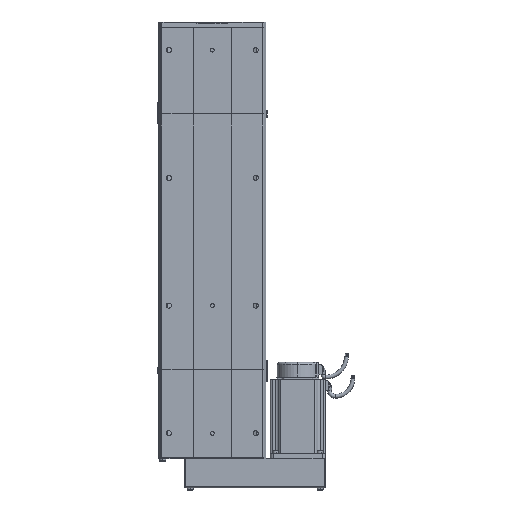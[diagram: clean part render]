
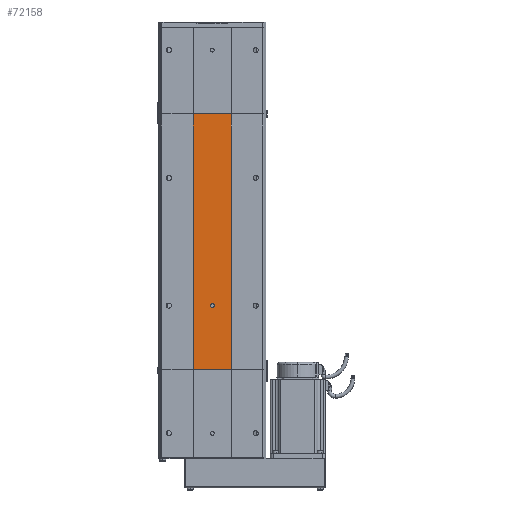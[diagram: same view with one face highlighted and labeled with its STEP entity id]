
A CAD part, front view. The second image highlights one B-rep face of the part: STEP entity #72158.
In plain terms, the highlighted planar face has unit normal (0, -1, 0).
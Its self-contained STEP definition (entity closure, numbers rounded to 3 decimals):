
#7827 = DIRECTION ( 'NONE',  ( 0., 0., -1. ) ) ;
#7828 = DIRECTION ( 'NONE',  ( 0., -1., 0. ) ) ;
#7900 = CARTESIAN_POINT ( 'NONE',  ( 0., -32.5, 100. ) ) ;
#7901 = AXIS2_PLACEMENT_3D ( 'NONE', #7900, #7828, #7827 ) ;
#7993 = CIRCLE ( 'NONE', #7901, 3. ) ;
#8314 = CARTESIAN_POINT ( 'NONE',  ( 0., -32.5, 103. ) ) ;
#8485 = CARTESIAN_POINT ( 'NONE',  ( 0., -32.5, 97. ) ) ;
#20485 = DIRECTION ( 'NONE',  ( -1., 0., 0. ) ) ;
#20486 = VECTOR ( 'NONE', #20485, 1000. ) ;
#20487 = CARTESIAN_POINT ( 'NONE',  ( -30., -32.5, 400. ) ) ;
#20489 = LINE ( 'NONE', #20487, #20486 ) ;
#20582 = CARTESIAN_POINT ( 'NONE',  ( 30., -32.5, 400. ) ) ;
#21229 = CARTESIAN_POINT ( 'NONE',  ( -30., -32.5, 400. ) ) ;
#21699 = AXIS2_PLACEMENT_3D ( 'NONE', #21706, #22015, #22014 ) ;
#21700 = LINE ( 'NONE', #21715, #21714 ) ;
#21706 = CARTESIAN_POINT ( 'NONE',  ( 0., -32.5, 100. ) ) ;
#21713 = DIRECTION ( 'NONE',  ( 0., 0., 1. ) ) ;
#21714 = VECTOR ( 'NONE', #21713, 1000. ) ;
#21715 = CARTESIAN_POINT ( 'NONE',  ( -30., -32.5, 0. ) ) ;
#21853 = CIRCLE ( 'NONE', #21699, 3. ) ;
#21888 = CARTESIAN_POINT ( 'NONE',  ( 30., -32.5, 0. ) ) ;
#22014 = DIRECTION ( 'NONE',  ( 0., 0., -1. ) ) ;
#22015 = DIRECTION ( 'NONE',  ( 0., -1., 0. ) ) ;
#22094 = DIRECTION ( 'NONE',  ( 0., 0., 1. ) ) ;
#22095 = LINE ( 'NONE', #22492, #22279 ) ;
#22096 = CARTESIAN_POINT ( 'NONE',  ( -30., -32.5, 0. ) ) ;
#22146 = DIRECTION ( 'NONE',  ( 0., 1., 0. ) ) ;
#22151 = FACE_OUTER_BOUND ( 'NONE', #72157, .T. ) ;
#22175 = AXIS2_PLACEMENT_3D ( 'NONE', #22096, #22146, #22094 ) ;
#22279 = VECTOR ( 'NONE', #22491, 1000. ) ;
#22292 = PLANE ( 'NONE',  #22175 ) ;
#22296 = FACE_BOUND ( 'NONE', #72032, .T. ) ;
#22491 = DIRECTION ( 'NONE',  ( 0., 0., 1. ) ) ;
#22492 = CARTESIAN_POINT ( 'NONE',  ( 30., -32.5, 0. ) ) ;
#22583 = VECTOR ( 'NONE', #22762, 1000. ) ;
#22653 = CARTESIAN_POINT ( 'NONE',  ( -30., -32.5, 0. ) ) ;
#22762 = DIRECTION ( 'NONE',  ( -1., 0., 0. ) ) ;
#22769 = CARTESIAN_POINT ( 'NONE',  ( -30., -32.5, 0. ) ) ;
#22771 = LINE ( 'NONE', #22769, #22583 ) ;
#71844 = EDGE_CURVE ( 'NONE', #71845, #71902, #20489, .T. ) ;
#71845 = VERTEX_POINT ( 'NONE', #20582 ) ;
#71902 = VERTEX_POINT ( 'NONE', #21229 ) ;
#72025 = ORIENTED_EDGE ( 'NONE', *, *, #72173, .T. ) ;
#72030 = EDGE_CURVE ( 'NONE', #73950, #73887, #21853, .T. ) ;
#72032 = EDGE_LOOP ( 'NONE', ( #72153, #72160 ) ) ;
#72037 = EDGE_CURVE ( 'NONE', #72265, #71902, #21700, .T. ) ;
#72095 = VERTEX_POINT ( 'NONE', #21888 ) ;
#72153 = ORIENTED_EDGE ( 'NONE', *, *, #72030, .F. ) ;
#72157 = EDGE_LOOP ( 'NONE', ( #72159, #72172, #72171, #72025 ) ) ;
#72158 = ADVANCED_FACE ( 'NONE', ( #22296, #22151 ), #22292, .F. ) ;
#72159 = ORIENTED_EDGE ( 'NONE', *, *, #71844, .T. ) ;
#72160 = ORIENTED_EDGE ( 'NONE', *, *, #73839, .F. ) ;
#72171 = ORIENTED_EDGE ( 'NONE', *, *, #72267, .F. ) ;
#72172 = ORIENTED_EDGE ( 'NONE', *, *, #72037, .F. ) ;
#72173 = EDGE_CURVE ( 'NONE', #72095, #71845, #22095, .T. ) ;
#72265 = VERTEX_POINT ( 'NONE', #22653 ) ;
#72267 = EDGE_CURVE ( 'NONE', #72095, #72265, #22771, .T. ) ;
#73839 = EDGE_CURVE ( 'NONE', #73887, #73950, #7993, .T. ) ;
#73887 = VERTEX_POINT ( 'NONE', #8314 ) ;
#73950 = VERTEX_POINT ( 'NONE', #8485 ) ;
